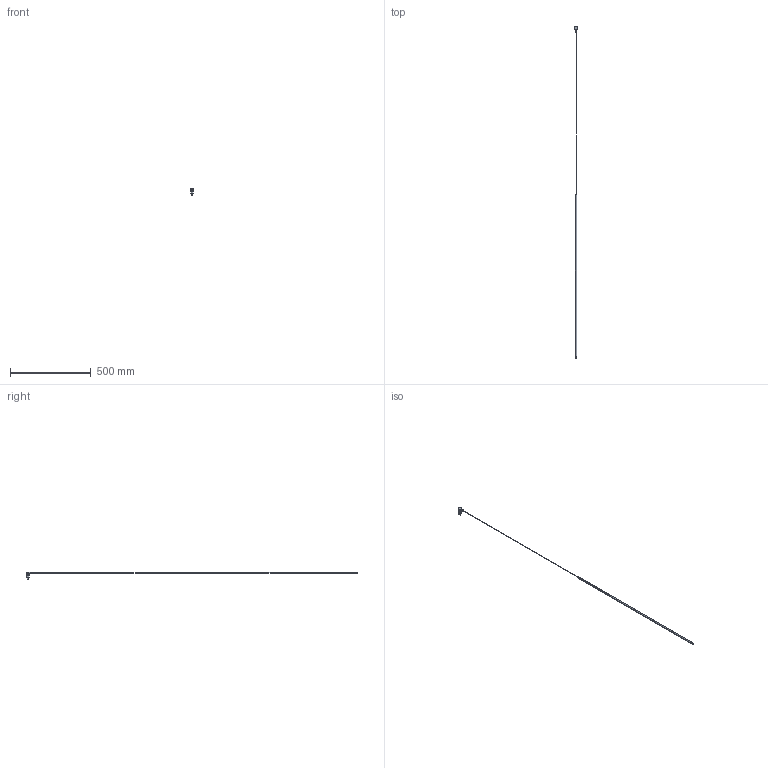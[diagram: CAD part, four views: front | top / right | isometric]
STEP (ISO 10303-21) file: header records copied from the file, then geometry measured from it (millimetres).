
FILE_DESCRIPTION (( 'STEP AP203' ), '1' );
FILE_NAME ('ST.STEP', '2021-03-18T06:23:40', ( '' ), ( '' ), 'SwSTEP 2.0', 'SolidWorks 2015', '' );
FILE_SCHEMA (( 'CONFIG_CONTROL_DESIGN' ));
Length unit declared in the file: millimetre
Products named in the file (1): ST
Bounding box: 21 x 2053 x 47.75 mm (x, y, z)
Volume: 78025.7 mm3; surface area: 45530.3 mm2
Topology: 5 solids, 5 shells, 228 faces, 600 edges, 385 vertices
Faces by surface type: plane 116, cylinder 70, bspline 40, cone 2
Entity records: 9129 total; most frequent: CARTESIAN_POINT 3881, ORIENTED_EDGE 1192, DIRECTION 935, EDGE_CURVE 596, VERTEX_POINT 385, VECTOR 355, LINE 355, AXIS2_PLACEMENT_3D 290
